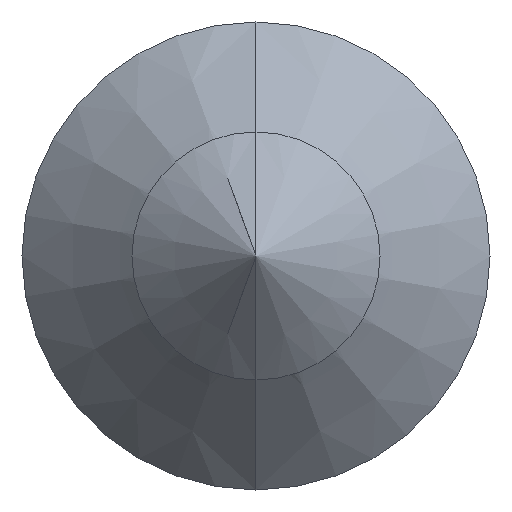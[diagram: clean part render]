
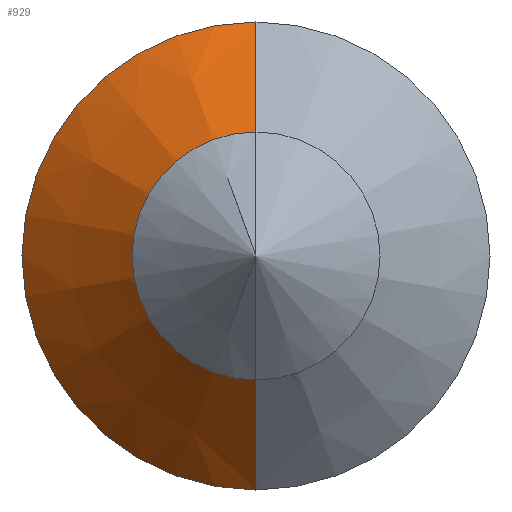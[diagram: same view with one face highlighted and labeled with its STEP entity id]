
A CAD part, left-side view. The second image highlights one B-rep face of the part: STEP entity #929.
In plain terms, the highlighted conical face has half-angle 45 degrees and reference radius 2.075 mm.
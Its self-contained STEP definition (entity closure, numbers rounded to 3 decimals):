
#49 = AXIS2_PLACEMENT_3D ( 'NONE', #71, #761, #684 ) ;
#71 = CARTESIAN_POINT ( 'NONE',  ( -8.84, 0., 0. ) ) ;
#83 = CARTESIAN_POINT ( 'NONE',  ( -8.84, 0., -0.8 ) ) ;
#107 = VERTEX_POINT ( 'NONE', #229 ) ;
#143 = ORIENTED_EDGE ( 'NONE', *, *, #883, .T. ) ;
#179 = AXIS2_PLACEMENT_3D ( 'NONE', #1352, #536, #1233 ) ;
#206 = LINE ( 'NONE', #944, #522 ) ;
#229 = CARTESIAN_POINT ( 'NONE',  ( -7.565, 0., -2.075 ) ) ;
#335 = CARTESIAN_POINT ( 'NONE',  ( -8.84, 0., 0.8 ) ) ;
#498 = CARTESIAN_POINT ( 'NONE',  ( -7.565, 0., 2.075 ) ) ;
#522 = VECTOR ( 'NONE', #847, 1000. ) ;
#536 = DIRECTION ( 'NONE',  ( -1., 0., 0. ) ) ;
#540 = VECTOR ( 'NONE', #615, 1000. ) ;
#615 = DIRECTION ( 'NONE',  ( 0.707, 0., 0.707 ) ) ;
#638 = CARTESIAN_POINT ( 'NONE',  ( -7.565, 0., 2.075 ) ) ;
#684 = DIRECTION ( 'NONE',  ( 0., 0., 1. ) ) ;
#761 = DIRECTION ( 'NONE',  ( -1., 0., 0. ) ) ;
#847 = DIRECTION ( 'NONE',  ( 0.707, 0., -0.707 ) ) ;
#863 = VERTEX_POINT ( 'NONE', #83 ) ;
#883 = EDGE_CURVE ( 'NONE', #956, #107, #1278, .T. ) ;
#929 = ADVANCED_FACE ( 'NONE', ( #1489 ), #1445, .T. ) ;
#944 = CARTESIAN_POINT ( 'NONE',  ( -7.565, 0., -2.075 ) ) ;
#948 = ORIENTED_EDGE ( 'NONE', *, *, #1181, .F. ) ;
#956 = VERTEX_POINT ( 'NONE', #638 ) ;
#1042 = EDGE_CURVE ( 'NONE', #1280, #956, #1481, .T. ) ;
#1063 = DIRECTION ( 'NONE',  ( 0., 0., -1. ) ) ;
#1102 = ORIENTED_EDGE ( 'NONE', *, *, #1042, .T. ) ;
#1179 = AXIS2_PLACEMENT_3D ( 'NONE', #1376, #1450, #1063 ) ;
#1181 = EDGE_CURVE ( 'NONE', #863, #107, #206, .T. ) ;
#1192 = EDGE_LOOP ( 'NONE', ( #1285, #1102, #143, #948 ) ) ;
#1233 = DIRECTION ( 'NONE',  ( 0., 0., 1. ) ) ;
#1278 = CIRCLE ( 'NONE', #179, 2.075 ) ;
#1280 = VERTEX_POINT ( 'NONE', #335 ) ;
#1285 = ORIENTED_EDGE ( 'NONE', *, *, #1460, .F. ) ;
#1352 = CARTESIAN_POINT ( 'NONE',  ( -7.565, 0., 0. ) ) ;
#1376 = CARTESIAN_POINT ( 'NONE',  ( -7.565, 0., 0. ) ) ;
#1445 = CONICAL_SURFACE ( 'NONE', #1179, 2.075, 0.785 ) ;
#1450 = DIRECTION ( 'NONE',  ( 1., 0., 0. ) ) ;
#1458 = CIRCLE ( 'NONE', #49, 0.8 ) ;
#1460 = EDGE_CURVE ( 'NONE', #1280, #863, #1458, .T. ) ;
#1481 = LINE ( 'NONE', #498, #540 ) ;
#1489 = FACE_OUTER_BOUND ( 'NONE', #1192, .T. ) ;
